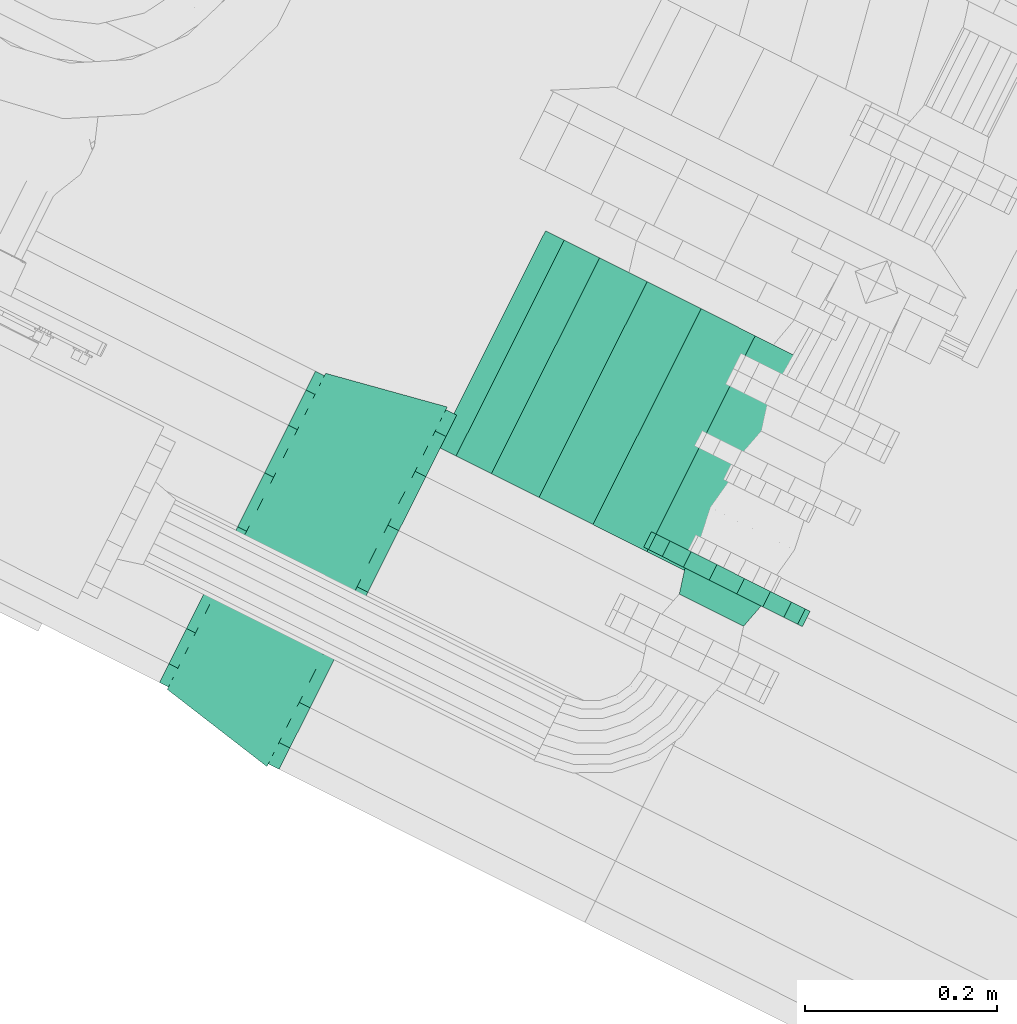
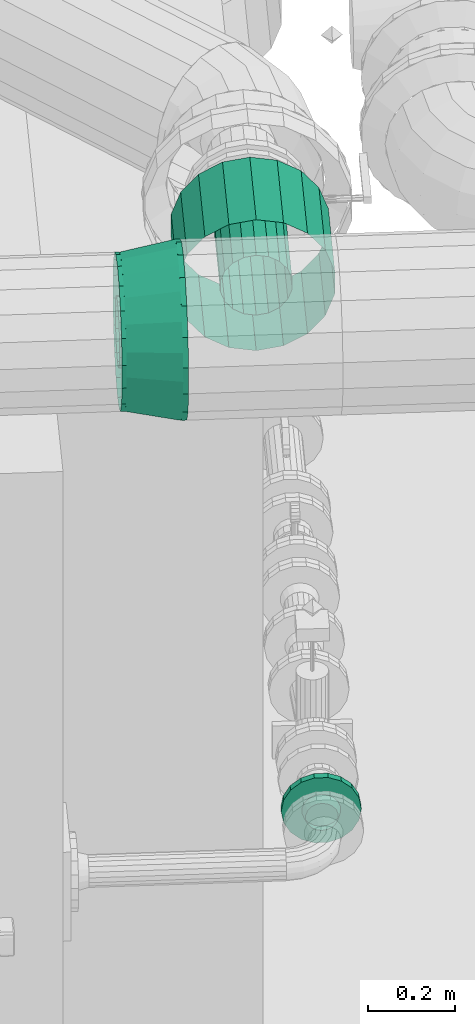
# One storey, part 58 of 206: 2 flow fittings, 1 flow segment.
"""IFC2X3 building model written with IfcOpenShell, lengths in metres."""

from ifc_helpers import new_model, si_unit, derived_unit, direction, frame, origin, place, context, subcontext, project, spatial, face_set, surface_model, source, transform, mapped, material, type_object, type_shapes, element, save


model = new_model("IFC2X3")

# Units and contexts
model_context = context("Model", 3, precision=5.2338327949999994e-05, world=origin(), true_north=direction((0.0, 1.0)))
body_context = subcontext(model_context, "Body", "Model", "MODEL_VIEW")
ifc_project = project(units=[si_unit("LENGTHUNIT", "METRE"), si_unit("AREAUNIT", "SQUARE_METRE"), si_unit("VOLUMEUNIT", "CUBIC_METRE"), si_unit("MASSUNIT", "GRAM", prefix="KILO"), si_unit("PLANEANGLEUNIT", "RADIAN"), derived_unit("THERMALTRANSMITTANCEUNIT", [(si_unit("MASSUNIT", "GRAM", prefix="KILO"), 1), (si_unit("THERMODYNAMICTEMPERATUREUNIT", "KELVIN"), -1), (si_unit("TIMEUNIT", "SECOND"), -3)])], contexts=[model_context])

# Site, building, storey
site_placement = place(None, frame((0.0, 0.0, 0.0), z_axis=(0.0, 0.0, 1.0), x_axis=(0.8939966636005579, -0.4480736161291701, 0.0)))
site = spatial("IfcSite", under=ifc_project, at=site_placement, Name="Default", CompositionType="ELEMENT")
building_placement = place(site_placement, origin())
building = spatial("IfcBuilding", under=site, at=building_placement, CompositionType="ELEMENT")
storey_placement = place(building_placement, origin())
storey = spatial("IfcBuildingStorey", under=building, at=storey_placement, Name="Erdgeschoss", CompositionType="ELEMENT", Elevation=0.0)

# Flow segment
ifc_material_1 = material(Name="IfcSurfaceStyle #9317")
distribution_element_type_1 = type_object("IfcDistributionElementType", Name="Stahlrohr nach DIN 2448 343804:Stahlrohr nach DIN 2448 343804", material=ifc_material_1)
shared_shape_1 = source(origin(), body_context, "Body", "SurfaceModel", [
    surface_model("IfcFaceBasedSurfaceModel", [(24.940398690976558, 5.288912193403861, 2.2698500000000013), (24.96917968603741, 5.288912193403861, 2.274924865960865), (24.96917968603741, 5.0373129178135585, 2.274924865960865), (24.940398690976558, 5.0373129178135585, 2.2698500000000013), (24.994489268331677, 5.288912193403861, 2.289537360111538), (24.99448926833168, 5.0373129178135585, 2.2895373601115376), (25.013274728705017, 5.288912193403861, 2.311925), (25.013274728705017, 5.0373129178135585, 2.3119250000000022), (25.023270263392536, 5.288912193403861, 2.339387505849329), (25.023270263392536, 5.0373129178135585, 2.339387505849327), (25.023270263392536, 5.288912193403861, 2.3686124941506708), (25.023270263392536, 5.0373129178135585, 2.368612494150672), (25.013274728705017, 5.288912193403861, 2.396074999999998), (25.013274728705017, 5.0373129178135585, 2.3960749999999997), (24.994489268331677, 5.288912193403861, 2.418462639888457), (24.994489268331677, 5.0373129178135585, 2.4184626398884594), (24.96917968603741, 5.288912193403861, 2.433075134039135), (24.96917968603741, 5.0373129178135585, 2.433075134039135), (24.940398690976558, 5.288912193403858, 2.4381500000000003), (24.94039869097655, 5.0373129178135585, 2.4381500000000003), (24.9116176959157, 5.288912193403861, 2.433075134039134), (24.911617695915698, 5.0373129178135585, 2.4330751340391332), (24.886308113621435, 5.288912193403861, 2.4184626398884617), (24.886308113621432, 5.0373129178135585, 2.418462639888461), (24.867522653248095, 5.288912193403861, 2.396075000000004), (24.867522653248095, 5.0373129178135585, 2.3960750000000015), (24.857527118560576, 5.288912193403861, 2.368612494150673), (24.857527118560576, 5.0373129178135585, 2.368612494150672), (24.857527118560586, 5.288912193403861, 2.339387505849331), (24.857527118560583, 5.0373129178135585, 2.3393875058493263), (24.867522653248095, 5.288912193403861, 2.311925), (24.867522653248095, 5.0373129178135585, 2.3119249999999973), (24.886308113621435, 5.288912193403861, 2.289537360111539), (24.886308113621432, 5.0373129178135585, 2.2895373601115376), (24.9116176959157, 5.288912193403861, 2.2749248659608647), (24.9116176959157, 5.0373129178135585, 2.2749248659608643), (24.940398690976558, 5.288912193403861, 2.1698500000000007), (25.003381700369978, 5.288912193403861, 2.1809556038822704), (25.00338170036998, 5.0373129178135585, 2.180955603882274), (24.94039869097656, 5.0373129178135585, 2.169850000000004), (25.05876802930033, 5.288912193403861, 2.2129329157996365), (25.05876802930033, 5.0373129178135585, 2.21293291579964), (25.09987726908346, 5.288912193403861, 2.2619249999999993), (25.099877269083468, 5.0373129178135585, 2.261925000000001), (25.121751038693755, 5.288912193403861, 2.3220226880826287), (25.12175103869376, 5.0373129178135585, 2.3220226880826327), (25.121751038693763, 5.288912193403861, 2.3859773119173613), (25.12175103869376, 5.0373129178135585, 2.385977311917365), (25.09987726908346, 5.288912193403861, 2.4460749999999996), (25.09987726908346, 5.0373129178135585, 2.446075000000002), (25.05876802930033, 5.288912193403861, 2.495067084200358), (25.058768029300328, 5.0373129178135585, 2.495067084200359), (25.003381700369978, 5.288912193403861, 2.527044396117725), (25.003381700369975, 5.0373129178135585, 2.527044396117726), (24.940398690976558, 5.288912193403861, 2.538150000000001), (24.94039869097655, 5.0373129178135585, 2.5381500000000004), (24.877415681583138, 5.288912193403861, 2.527044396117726), (24.87741568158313, 5.0373129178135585, 2.527044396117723), (24.82202935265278, 5.288912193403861, 2.4950670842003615), (24.822029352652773, 5.0373129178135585, 2.4950670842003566), (24.780920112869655, 5.288912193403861, 2.446075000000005), (24.78092011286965, 5.0373129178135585, 2.446075), (24.759046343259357, 5.288912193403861, 2.3859773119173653), (24.759046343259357, 5.0373129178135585, 2.3859773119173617), (24.759046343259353, 5.288912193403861, 2.3220226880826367), (24.759046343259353, 5.0373129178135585, 2.3220226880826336), (24.780920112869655, 5.288912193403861, 2.261925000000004), (24.780920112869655, 5.0373129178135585, 2.2619249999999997), (24.822029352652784, 5.288912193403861, 2.2129329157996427), (24.822029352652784, 5.0373129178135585, 2.2129329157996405), (24.877415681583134, 5.288912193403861, 2.1809556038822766), (24.877415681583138, 5.0373129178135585, 2.1809556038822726)], [face_set([[[0, 1, 2, 3]], [[1, 4, 5, 2]], [[4, 6, 7, 5]], [[6, 8, 9, 7]], [[8, 10, 11, 9]], [[10, 12, 13, 11]], [[12, 14, 15, 13]], [[14, 16, 17, 15]], [[16, 18, 19, 17]], [[18, 20, 21, 19]], [[20, 22, 23, 21]], [[22, 24, 25, 23]], [[24, 26, 27, 25]], [[26, 28, 29, 27]], [[28, 30, 31, 29]], [[30, 32, 33, 31]], [[32, 34, 35, 33]], [[34, 0, 3, 35]], [[36, 37, 38, 39]], [[37, 40, 41, 38]], [[40, 42, 43, 41]], [[42, 44, 45, 43]], [[44, 46, 47, 45]], [[46, 48, 49, 47]], [[48, 50, 51, 49]], [[50, 52, 53, 51]], [[52, 54, 55, 53]], [[54, 56, 57, 55]], [[56, 58, 59, 57]], [[58, 60, 61, 59]], [[60, 62, 63, 61]], [[62, 64, 65, 63]], [[64, 66, 67, 65]], [[66, 68, 69, 67]], [[68, 70, 71, 69]], [[70, 36, 39, 71]]])]),
])
type_shapes(distribution_element_type_1, [shared_shape_1])
flow_segment_placement = place(storey_placement, origin())
element("IfcFlowSegment", 1, at=flow_segment_placement, inside=storey, type_object=distribution_element_type_1, material=ifc_material_1, Name="Stahlrohr nach DIN 2448", ObjectType="Stahlrohr nach DIN 2448", context=body_context, shape_type="MappedRepresentation", body=[
    mapped(shared_shape_1, transform((0.0, 0.0, 0.0), scale=1.0)),
])

# Flow fittings
distribution_element_type_2 = type_object("IfcDistributionElementType", Name="Übergangsstück 344722:Übergangsstück 344722", material=ifc_material_1)
shared_shape_2 = source(origin(), body_context, "Body", "SurfaceModel", [
    surface_model("IfcFaceBasedSurfaceModel", [(24.762398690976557, 4.869312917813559, 2.463550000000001), (24.762398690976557, 4.906781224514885, 2.456943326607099), (24.749795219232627, 4.906781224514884, 2.456943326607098), (24.749795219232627, 4.869312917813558, 2.4635499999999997), (24.762398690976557, 4.9397303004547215, 2.437920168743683), (24.749795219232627, 4.93973030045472, 2.437920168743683), (24.762398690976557, 4.964186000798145, 2.4087750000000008), (24.749795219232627, 4.964186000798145, 2.4087749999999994), (24.762398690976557, 4.977198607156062, 2.3730231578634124), (24.749795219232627, 4.977198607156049, 2.373023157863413), (24.762398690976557, 4.9771986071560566, 2.334976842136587), (24.749795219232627, 4.977198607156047, 2.3349768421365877), (24.762398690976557, 4.964186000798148, 2.2992250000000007), (24.749795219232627, 4.964186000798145, 2.2992250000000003), (24.762398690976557, 4.939730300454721, 2.270079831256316), (24.749795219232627, 4.939730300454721, 2.270079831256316), (24.762398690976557, 4.906781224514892, 2.2510566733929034), (24.749795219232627, 4.906781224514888, 2.251056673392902), (24.762398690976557, 4.869312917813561, 2.244450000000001), (24.749795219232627, 4.869312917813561, 2.244449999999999), (24.762398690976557, 4.831844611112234, 2.251056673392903), (24.749795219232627, 4.831844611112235, 2.2510566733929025), (24.762398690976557, 4.798895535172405, 2.2700798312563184), (24.749795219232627, 4.7988955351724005, 2.270079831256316), (24.762398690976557, 4.774439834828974, 2.299225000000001), (24.749795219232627, 4.774439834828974, 2.299224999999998), (24.762398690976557, 4.761427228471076, 2.334976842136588), (24.749795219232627, 4.761427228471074, 2.3349768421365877), (24.762398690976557, 4.761427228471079, 2.3730231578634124), (24.749795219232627, 4.7614272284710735, 2.373023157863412), (24.762398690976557, 4.77443983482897, 2.4087750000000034), (24.749795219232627, 4.774439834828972, 2.4087750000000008), (24.762398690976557, 4.798895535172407, 2.4379201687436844), (24.749795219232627, 4.798895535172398, 2.437920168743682), (24.762398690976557, 4.831844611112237, 2.4569433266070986), (24.749795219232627, 4.831844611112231, 2.456943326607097), (24.762398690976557, 4.869312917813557, 2.563550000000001), (24.762398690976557, 4.940983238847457, 2.5509125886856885), (24.749795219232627, 4.940983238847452, 2.5509125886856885), (24.749795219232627, 4.869312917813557, 2.5635499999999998), (24.762398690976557, 5.004009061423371, 2.5145246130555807), (24.749795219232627, 5.00400906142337, 2.5145246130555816), (24.762398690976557, 5.050788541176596, 2.4587749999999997), (24.749795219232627, 5.050788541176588, 2.4587749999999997), (24.762398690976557, 5.075679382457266, 2.390387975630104), (24.749795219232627, 5.075679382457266, 2.3903879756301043), (24.762398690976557, 5.075679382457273, 2.3176120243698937), (24.749795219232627, 5.075679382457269, 2.3176120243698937), (24.762398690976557, 5.0507885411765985, 2.2492249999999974), (24.749795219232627, 5.0507885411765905, 2.2492249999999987), (24.762398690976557, 5.004009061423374, 2.1934753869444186), (24.749795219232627, 5.004009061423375, 2.1934753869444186), (24.762398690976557, 4.940983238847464, 2.1570874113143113), (24.749795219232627, 4.940983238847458, 2.1570874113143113), (24.762398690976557, 4.869312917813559, 2.1444500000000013), (24.749795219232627, 4.869312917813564, 2.14445), (24.762398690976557, 4.797642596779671, 2.1570874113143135), (24.749795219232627, 4.797642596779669, 2.1570874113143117), (24.762398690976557, 4.734616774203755, 2.19347538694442), (24.749795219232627, 4.734616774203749, 2.1934753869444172), (24.762398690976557, 4.6878372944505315, 2.2492250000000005), (24.749795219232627, 4.6878372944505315, 2.249224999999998), (24.762398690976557, 4.662946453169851, 2.3176120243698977), (24.749795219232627, 4.662946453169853, 2.3176120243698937), (24.762398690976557, 4.662946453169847, 2.3903879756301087), (24.749795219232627, 4.662946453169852, 2.3903879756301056), (24.762398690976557, 4.68783729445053, 2.4587750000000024), (24.749795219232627, 4.68783729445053, 2.4587749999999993), (24.762398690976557, 4.734616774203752, 2.514524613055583), (24.749795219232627, 4.734616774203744, 2.5145246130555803), (24.762398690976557, 4.797642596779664, 2.5509125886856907), (24.749795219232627, 4.797642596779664, 2.5509125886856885), (24.749795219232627, 4.97886291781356, 2.353999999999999), (24.749795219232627, 4.972256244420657, 2.3165316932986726), (24.620857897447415, 4.948388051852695, 2.325219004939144), (24.620857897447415, 4.953462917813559, 2.3539999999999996), (24.749795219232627, 4.953233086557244, 2.283582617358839), (24.620857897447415, 4.933775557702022, 2.2999094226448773), (24.749795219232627, 4.92408791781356, 2.2591269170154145), (24.620857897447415, 4.911387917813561, 2.281123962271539), (24.749795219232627, 4.888336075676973, 2.2461143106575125), (24.620857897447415, 4.883925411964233, 2.2711284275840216), (24.749795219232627, 4.850289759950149, 2.2461143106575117), (24.620857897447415, 4.854700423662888, 2.2711284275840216), (24.749795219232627, 4.8145379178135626, 2.2591269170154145), (24.620857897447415, 4.827237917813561, 2.281123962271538), (24.749795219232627, 4.785392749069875, 2.2835826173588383), (24.620857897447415, 4.804850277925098, 2.2999094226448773), (24.749795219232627, 4.766369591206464, 2.3165316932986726), (24.620857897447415, 4.790237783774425, 2.325219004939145), (24.749795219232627, 4.7597629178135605, 2.3539999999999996), (24.620857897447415, 4.78516291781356, 2.3540000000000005), (24.749795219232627, 4.766369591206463, 2.3914683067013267), (24.620857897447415, 4.790237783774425, 2.3827809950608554), (24.749795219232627, 4.7853927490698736, 2.4244173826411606), (24.620857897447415, 4.804850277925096, 2.408090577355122), (24.749795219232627, 4.814537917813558, 2.4488730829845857), (24.620857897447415, 4.82723791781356, 2.4268760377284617), (24.749795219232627, 4.850289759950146, 2.461885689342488), (24.620857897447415, 4.8547004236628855, 2.4368715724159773), (24.749795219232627, 4.88833607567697, 2.4618856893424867), (24.620857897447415, 4.883925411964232, 2.4368715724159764), (24.749795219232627, 4.924087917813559, 2.4488730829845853), (24.620857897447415, 4.911387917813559, 2.426876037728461), (24.749795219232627, 4.953233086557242, 2.4244173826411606), (24.620857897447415, 4.933775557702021, 2.408090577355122), (24.749795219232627, 4.972256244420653, 2.391468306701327), (24.620857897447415, 4.948388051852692, 2.382780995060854), (24.620857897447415, 4.869312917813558, 2.4381500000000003), (24.620857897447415, 4.8980939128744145, 2.4330751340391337), (24.610398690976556, 4.8980939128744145, 2.4330751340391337), (24.610398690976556, 4.869312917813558, 2.4381500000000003), (24.620857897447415, 4.923403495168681, 2.4184626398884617), (24.610398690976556, 4.923403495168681, 2.4184626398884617), (24.620857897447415, 4.94218895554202, 2.3960749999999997), (24.610398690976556, 4.94218895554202, 2.3960749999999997), (24.620857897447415, 4.952184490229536, 2.368612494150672), (24.610398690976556, 4.952184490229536, 2.368612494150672), (24.620857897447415, 4.952184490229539, 2.339387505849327), (24.610398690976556, 4.952184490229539, 2.339387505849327), (24.620857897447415, 4.942188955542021, 2.311925), (24.610398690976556, 4.942188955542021, 2.311925), (24.620857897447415, 4.923403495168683, 2.2895373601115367), (24.610398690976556, 4.923403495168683, 2.2895373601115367), (24.620857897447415, 4.898093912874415, 2.2749248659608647), (24.610398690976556, 4.898093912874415, 2.2749248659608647), (24.620857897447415, 4.869312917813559, 2.26985), (24.610398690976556, 4.869312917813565, 2.2698500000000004), (24.620857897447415, 4.840531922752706, 2.2749248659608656), (24.610398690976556, 4.840531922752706, 2.2749248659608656), (24.620857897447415, 4.815222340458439, 2.2895373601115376), (24.610398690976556, 4.815222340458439, 2.2895373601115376), (24.620857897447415, 4.796436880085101, 2.311925), (24.610398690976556, 4.796436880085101, 2.311925), (24.620857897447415, 4.7864413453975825, 2.339387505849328), (24.610398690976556, 4.7864413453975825, 2.339387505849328), (24.620857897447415, 4.7864413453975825, 2.368612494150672), (24.610398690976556, 4.7864413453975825, 2.368612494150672), (24.620857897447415, 4.796436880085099, 2.396075), (24.610398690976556, 4.796436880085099, 2.396075), (24.620857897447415, 4.815222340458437, 2.418462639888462), (24.610398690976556, 4.815222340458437, 2.418462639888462), (24.620857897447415, 4.840531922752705, 2.4330751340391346), (24.610398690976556, 4.840531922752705, 2.4330751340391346), (24.749795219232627, 5.07886291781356, 2.3539999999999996), (24.749795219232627, 5.066225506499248, 2.2823296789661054), (24.620857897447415, 5.042357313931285, 2.2910169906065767), (24.620857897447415, 5.053462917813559, 2.3539999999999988), (24.749795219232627, 5.029837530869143, 2.2193038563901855), (24.620857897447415, 5.01038000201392, 2.235630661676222), (24.749795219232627, 4.974087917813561, 2.1725243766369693), (24.620857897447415, 4.96138791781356, 2.194521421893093), (24.749795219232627, 4.905700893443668, 2.147633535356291), (24.620857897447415, 4.901290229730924, 2.1726476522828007), (24.749795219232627, 4.832924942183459, 2.147633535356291), (24.620857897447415, 4.837335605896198, 2.172647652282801), (24.749795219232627, 4.764537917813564, 2.172524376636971), (24.620857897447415, 4.777237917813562, 2.194521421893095), (24.749795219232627, 4.70878830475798, 2.2193038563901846), (24.620857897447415, 4.728245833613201, 2.235630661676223), (24.749795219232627, 4.672400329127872, 2.2823296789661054), (24.620857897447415, 4.696268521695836, 2.291016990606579), (24.749795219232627, 4.659762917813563, 2.353999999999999), (24.620857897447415, 4.68516291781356, 2.354), (24.749795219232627, 4.672400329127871, 2.425670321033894), (24.620857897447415, 4.696268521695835, 2.4169830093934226), (24.749795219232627, 4.708788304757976, 2.4886961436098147), (24.620857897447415, 4.728245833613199, 2.472369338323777), (24.749795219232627, 4.7645379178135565, 2.53547562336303), (24.620857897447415, 4.77723791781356, 2.513478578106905), (24.749795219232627, 4.832924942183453, 2.5603664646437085), (24.620857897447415, 4.837335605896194, 2.5353523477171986), (24.749795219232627, 4.90570089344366, 2.5603664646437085), (24.620857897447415, 4.901290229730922, 2.535352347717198), (24.749795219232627, 4.974087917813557, 2.5354756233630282), (24.620857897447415, 4.961387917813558, 2.513478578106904), (24.749795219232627, 5.0298375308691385, 2.488696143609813), (24.620857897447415, 5.010380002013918, 2.4723693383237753), (24.749795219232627, 5.066225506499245, 2.425670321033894), (24.620857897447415, 5.042357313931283, 2.4169830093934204), (24.620857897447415, 4.8693129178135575, 2.538150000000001), (24.620857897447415, 4.9322959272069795, 2.527044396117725), (24.610398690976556, 4.9322959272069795, 2.527044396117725), (24.610398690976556, 4.8693129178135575, 2.538150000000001), (24.620857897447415, 4.987682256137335, 2.4950670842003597), (24.610398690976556, 4.987682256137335, 2.4950670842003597), (24.620857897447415, 5.028791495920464, 2.446074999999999), (24.610398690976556, 5.028791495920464, 2.446074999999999), (24.620857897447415, 5.050665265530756, 2.3859773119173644), (24.610398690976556, 5.050665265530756, 2.3859773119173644), (24.620857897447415, 5.050665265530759, 2.3220226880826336), (24.610398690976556, 5.050665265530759, 2.3220226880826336), (24.620857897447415, 5.028791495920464, 2.261924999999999), (24.610398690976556, 5.028791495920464, 2.261924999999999), (24.620857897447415, 4.987682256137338, 2.2129329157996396), (24.610398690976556, 4.987682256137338, 2.2129329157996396), (24.620857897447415, 4.932295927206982, 2.180955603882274), (24.610398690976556, 4.932295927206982, 2.180955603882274), (24.620857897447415, 4.869312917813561, 2.1698499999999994), (24.610398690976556, 4.8693129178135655, 2.16985), (24.620857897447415, 4.80632990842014, 2.1809556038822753), (24.610398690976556, 4.80632990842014, 2.1809556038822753), (24.620857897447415, 4.750943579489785, 2.2129329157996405), (24.610398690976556, 4.750943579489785, 2.2129329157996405), (24.620857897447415, 4.709834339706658, 2.2619250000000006), (24.610398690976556, 4.709834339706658, 2.2619250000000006), (24.620857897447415, 4.6879605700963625, 2.322022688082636), (24.610398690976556, 4.6879605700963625, 2.322022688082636), (24.620857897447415, 4.6879605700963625, 2.385977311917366), (24.610398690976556, 4.6879605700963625, 2.385977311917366), (24.620857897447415, 4.7098343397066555, 2.4460750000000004), (24.610398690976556, 4.7098343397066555, 2.4460750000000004), (24.620857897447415, 4.750943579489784, 2.49506708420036), (24.610398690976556, 4.750943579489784, 2.49506708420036), (24.620857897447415, 4.806329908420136, 2.527044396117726), (24.610398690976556, 4.806329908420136, 2.527044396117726)], [face_set([[[0, 1, 2, 3]], [[1, 4, 5, 2]], [[4, 6, 7, 5]], [[6, 8, 9, 7]], [[8, 10, 11, 9]], [[10, 12, 13, 11]], [[12, 14, 15, 13]], [[14, 16, 17, 15]], [[16, 18, 19, 17]], [[18, 20, 21, 19]], [[20, 22, 23, 21]], [[22, 24, 25, 23]], [[24, 26, 27, 25]], [[26, 28, 29, 27]], [[28, 30, 31, 29]], [[30, 32, 33, 31]], [[32, 34, 35, 33]], [[34, 0, 3, 35]], [[36, 37, 38, 39]], [[37, 40, 41, 38]], [[40, 42, 43, 41]], [[42, 44, 45, 43]], [[44, 46, 47, 45]], [[46, 48, 49, 47]], [[48, 50, 51, 49]], [[50, 52, 53, 51]], [[52, 54, 55, 53]], [[54, 56, 57, 55]], [[56, 58, 59, 57]], [[58, 60, 61, 59]], [[60, 62, 63, 61]], [[62, 64, 65, 63]], [[64, 66, 67, 65]], [[66, 68, 69, 67]], [[68, 70, 71, 69]], [[70, 36, 39, 71]], [[72, 73, 74, 75]], [[73, 76, 77, 74]], [[76, 78, 79, 77]], [[78, 80, 81, 79]], [[80, 82, 83, 81]], [[82, 84, 85, 83]], [[84, 86, 87, 85]], [[86, 88, 89, 87]], [[88, 90, 91, 89]], [[90, 92, 93, 91]], [[92, 94, 95, 93]], [[94, 96, 97, 95]], [[96, 98, 99, 97]], [[98, 100, 101, 99]], [[100, 102, 103, 101]], [[102, 104, 105, 103]], [[104, 106, 107, 105]], [[106, 72, 75, 107]], [[108, 109, 110, 111]], [[109, 112, 113, 110]], [[112, 114, 115, 113]], [[114, 116, 117, 115]], [[116, 118, 119, 117]], [[118, 120, 121, 119]], [[120, 122, 123, 121]], [[122, 124, 125, 123]], [[124, 126, 127, 125]], [[126, 128, 129, 127]], [[128, 130, 131, 129]], [[130, 132, 133, 131]], [[132, 134, 135, 133]], [[134, 136, 137, 135]], [[136, 138, 139, 137]], [[138, 140, 141, 139]], [[140, 142, 143, 141]], [[142, 108, 111, 143]], [[144, 145, 146, 147]], [[145, 148, 149, 146]], [[148, 150, 151, 149]], [[150, 152, 153, 151]], [[152, 154, 155, 153]], [[154, 156, 157, 155]], [[156, 158, 159, 157]], [[158, 160, 161, 159]], [[160, 162, 163, 161]], [[162, 164, 165, 163]], [[164, 166, 167, 165]], [[166, 168, 169, 167]], [[168, 170, 171, 169]], [[170, 172, 173, 171]], [[172, 174, 175, 173]], [[174, 176, 177, 175]], [[176, 178, 179, 177]], [[178, 144, 147, 179]], [[180, 181, 182, 183]], [[181, 184, 185, 182]], [[184, 186, 187, 185]], [[186, 188, 189, 187]], [[188, 190, 191, 189]], [[190, 192, 193, 191]], [[192, 194, 195, 193]], [[194, 196, 197, 195]], [[196, 198, 199, 197]], [[198, 200, 201, 199]], [[200, 202, 203, 201]], [[202, 204, 205, 203]], [[204, 206, 207, 205]], [[206, 208, 209, 207]], [[208, 210, 211, 209]], [[210, 212, 213, 211]], [[212, 214, 215, 213]], [[214, 180, 183, 215]]])]),
])
type_shapes(distribution_element_type_2, [shared_shape_2])
flow_fitting_1_placement = place(storey_placement, origin())
element("IfcFlowFitting", 2, at=flow_fitting_1_placement, inside=storey, type_object=distribution_element_type_2, material=ifc_material_1, Name="Übergangsstück", ObjectType="Übergangsstück", context=body_context, shape_type="MappedRepresentation", body=[
    mapped(shared_shape_2, transform((0.0, 0.0, 0.0), scale=1.0)),
])
ifc_material_2 = material(Name="IfcSurfaceStyle #352577")
distribution_element_type_3 = type_object("IfcDistributionElementType", Name="Flansch 359693:Flansch 359693", material=ifc_material_2)
shared_shape_3 = source(origin(), body_context, "Body", "SurfaceModel", [
    surface_model("IfcFaceBasedSurfaceModel", [(25.090640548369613, 5.012958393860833, 0.908049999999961), (25.10365441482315, 5.01295839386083, 0.9057553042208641), (25.10603145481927, 5.0399583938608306, 0.9122861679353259), (25.090640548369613, 5.0399583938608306, 0.9149999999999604), (25.115098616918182, 5.012958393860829, 0.8991479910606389), (25.11956599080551, 5.039958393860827, 0.9044719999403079), (25.123592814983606, 5.012958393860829, 0.889024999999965), (25.129611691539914, 5.039958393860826, 0.8924999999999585), (25.12811248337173, 5.012958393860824, 0.8766073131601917), (25.13495689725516, 5.039958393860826, 0.8778141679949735), (25.128112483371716, 5.012958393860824, 0.8633926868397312), (25.134956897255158, 5.039958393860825, 0.8621858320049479), (25.12359281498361, 5.012958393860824, 0.8509749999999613), (25.129611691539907, 5.039958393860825, 0.8474999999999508), (25.115098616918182, 5.012958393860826, 0.8408520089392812), (25.1195659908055, 5.039958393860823, 0.835528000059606), (25.103654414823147, 5.012958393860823, 0.8342446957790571), (25.10603145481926, 5.039958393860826, 0.8277138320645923), (25.090640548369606, 5.012958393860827, 0.8319499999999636), (25.090640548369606, 5.039958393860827, 0.8249999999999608), (25.077626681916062, 5.012958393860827, 0.8342446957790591), (25.07524964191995, 5.039958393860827, 0.8277138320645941), (25.066182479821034, 5.012958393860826, 0.8408520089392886), (25.06171510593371, 5.039958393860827, 0.8355280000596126), (25.05768828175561, 5.012958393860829, 0.8509749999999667), (25.05166940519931, 5.0399583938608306, 0.8474999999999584), (25.053168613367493, 5.01295839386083, 0.8633926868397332), (25.046324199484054, 5.039958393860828, 0.8621858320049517), (25.053168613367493, 5.012958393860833, 0.8766073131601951), (25.046324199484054, 5.039958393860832, 0.8778141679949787), (25.05768828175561, 5.012958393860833, 0.8890249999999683), (25.051669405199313, 5.039958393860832, 0.8924999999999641), (25.066182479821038, 5.012958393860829, 0.8991479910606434), (25.061715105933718, 5.039958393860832, 0.9044719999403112), (25.077626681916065, 5.012958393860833, 0.9057553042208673), (25.075249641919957, 5.039958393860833, 0.9122861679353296), (25.18314054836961, 5.039958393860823, 0.8699999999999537), (25.177562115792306, 5.039958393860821, 0.8383631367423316), (25.177562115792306, 5.05795839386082, 0.8383631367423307), (25.18314054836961, 5.057958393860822, 0.8699999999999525), (25.161499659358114, 5.039958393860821, 0.8105421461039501), (25.161499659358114, 5.05795839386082, 0.8105421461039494), (25.136890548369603, 5.039958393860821, 0.7898926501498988), (25.136890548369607, 5.05795839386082, 0.7898926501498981), (25.10670300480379, 5.03995839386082, 0.778905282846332), (25.10670300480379, 5.05795839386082, 0.7789052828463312), (25.07457809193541, 5.039958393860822, 0.7789052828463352), (25.07457809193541, 5.057958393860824, 0.7789052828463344), (25.044390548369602, 5.039958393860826, 0.7898926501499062), (25.044390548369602, 5.057958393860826, 0.7898926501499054), (25.0197814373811, 5.039958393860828, 0.8105421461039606), (25.0197814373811, 5.057958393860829, 0.8105421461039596), (25.00371898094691, 5.039958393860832, 0.8383631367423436), (25.00371898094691, 5.057958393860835, 0.838363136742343), (24.99814054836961, 5.039958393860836, 0.8699999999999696), (24.998140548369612, 5.057958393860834, 0.8699999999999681), (25.003718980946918, 5.039958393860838, 0.901636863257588), (25.003718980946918, 5.057958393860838, 0.9016368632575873), (25.01978143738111, 5.039958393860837, 0.9294578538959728), (25.01978143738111, 5.0579583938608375, 0.929457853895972), (25.04439054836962, 5.039958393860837, 0.9501073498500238), (25.044390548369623, 5.0579583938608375, 0.9501073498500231), (25.074578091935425, 5.039958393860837, 0.9610947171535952), (25.074578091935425, 5.057958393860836, 0.9610947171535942), (25.10670300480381, 5.039958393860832, 0.9610947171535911), (25.10670300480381, 5.057958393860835, 0.9610947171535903), (25.13689054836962, 5.0399583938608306, 0.950107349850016), (25.13689054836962, 5.05795839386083, 0.9501073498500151), (25.161499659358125, 5.039958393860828, 0.9294578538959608), (25.161499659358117, 5.057958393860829, 0.9294578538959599), (25.17756211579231, 5.039958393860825, 0.9016368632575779), (25.17756211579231, 5.057958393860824, 0.9016368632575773), (25.090640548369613, 5.039958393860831, 0.8699999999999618)], [face_set([[[0, 1, 2, 3]], [[1, 4, 5, 2]], [[4, 6, 7, 5]], [[6, 8, 9, 7]], [[8, 10, 11, 9]], [[10, 12, 13, 11]], [[12, 14, 15, 13]], [[14, 16, 17, 15]], [[16, 18, 19, 17]], [[18, 20, 21, 19]], [[20, 22, 23, 21]], [[22, 24, 25, 23]], [[24, 26, 27, 25]], [[26, 28, 29, 27]], [[28, 30, 31, 29]], [[30, 32, 33, 31]], [[32, 34, 35, 33]], [[34, 0, 3, 35]], [[36, 37, 38, 39]], [[37, 40, 41, 38]], [[40, 42, 43, 41]], [[42, 44, 45, 43]], [[44, 46, 47, 45]], [[46, 48, 49, 47]], [[48, 50, 51, 49]], [[50, 52, 53, 51]], [[52, 54, 55, 53]], [[54, 56, 57, 55]], [[56, 58, 59, 57]], [[58, 60, 61, 59]], [[60, 62, 63, 61]], [[62, 64, 65, 63]], [[64, 66, 67, 65]], [[66, 68, 69, 67]], [[68, 70, 71, 69]], [[70, 36, 39, 71]], [[72, 37, 36]], [[72, 40, 37]], [[72, 42, 40]], [[72, 44, 42]], [[72, 46, 44]], [[72, 48, 46]], [[72, 50, 48]], [[72, 52, 50]], [[72, 54, 52]], [[72, 56, 54]], [[72, 58, 56]], [[72, 60, 58]], [[72, 62, 60]], [[72, 64, 62]], [[72, 66, 64]], [[72, 68, 66]], [[72, 70, 68]], [[72, 36, 70]]])]),
])
type_shapes(distribution_element_type_3, [shared_shape_3])
flow_fitting_2_placement = place(storey_placement, origin())
element("IfcFlowFitting", 3, at=flow_fitting_2_placement, inside=storey, type_object=distribution_element_type_3, material=ifc_material_2, Name="Flansch", ObjectType="Flansch", context=body_context, shape_type="MappedRepresentation", body=[
    mapped(shared_shape_3, transform((0.0, 0.0, 0.0), scale=1.0)),
])

save(model, "model.ifc")
